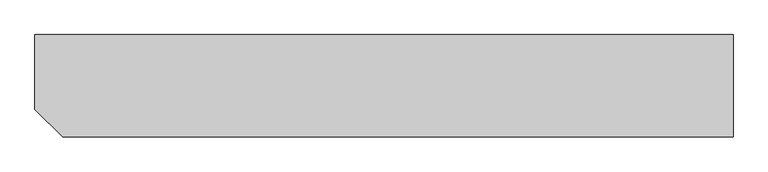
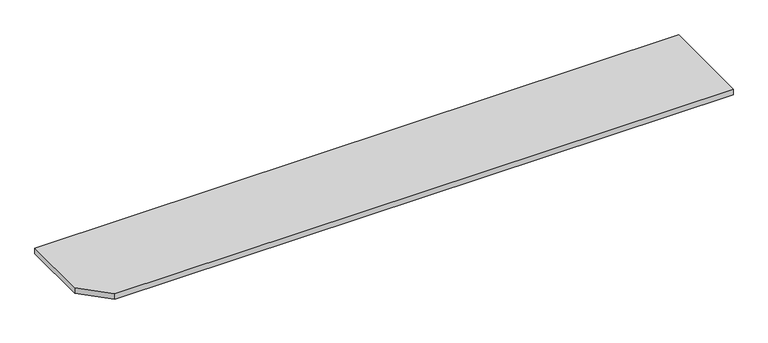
"""IFC4 building model written with IfcOpenShell, lengths in millimetres: furniture geometry, BIMHealth-Worktop_Corner_Chamfered-LOD2A-v1 : BIMHealth-Worktop_Corner_Chamfered-LOD2A-v1."""

from ifc_helpers import new_model, si_unit, frame, origin, place, context, project, spatial, polyline, outline, extrude, source, transform, mapped, element, save


def furniture_95308616(model_context):
    return source(origin(), model_context, "Body", "SweptSolid", [
        extrude(outline(polyline([(3273.0922383, -24.1168748), (130.0, -24.1168748), (0.0, 105.8831252), (0.0, 455.8831252), (3273.0922383, 455.8831252), (3273.0922383, -24.1168748)])), frame((0.0, 0.0, 720.0), z_axis=(0.0, 0.0, 1.0), x_axis=(1.0, 0.0, 0.0)), (0.0, 0.0, 1.0), 30.0),
    ])


if __name__ == "__main__":
    model = new_model("IFC4")
    model_context = context("Model", 3, world=origin())
    ifc_project = project(units=[si_unit("LENGTHUNIT", "METRE", prefix="MILLI")], contexts=[model_context])
    site = spatial("IfcSite", under=ifc_project)
    building = spatial("IfcBuilding", under=site)
    placement = place(None, origin())
    furniture_shape = furniture_95308616(model_context)
    element("IfcFurniture", 1, ObjectType="BIMHealth-Worktop_Corner_Chamfered-LOD2A-v1 : BIMHealth-Worktop_Corner_Chamfered-LOD2A-v1", at=placement, inside=building, context=model_context, shape_type="MappedRepresentation", body=[
        mapped(furniture_shape, transform((0.0, 0.0, 0.0), x_axis=(1.0, 0.0, 0.0), y_axis=(0.0, 1.0, 0.0), z_axis=(0.0, 0.0, 1.0))),
    ])
    save(model, "model.ifc")
